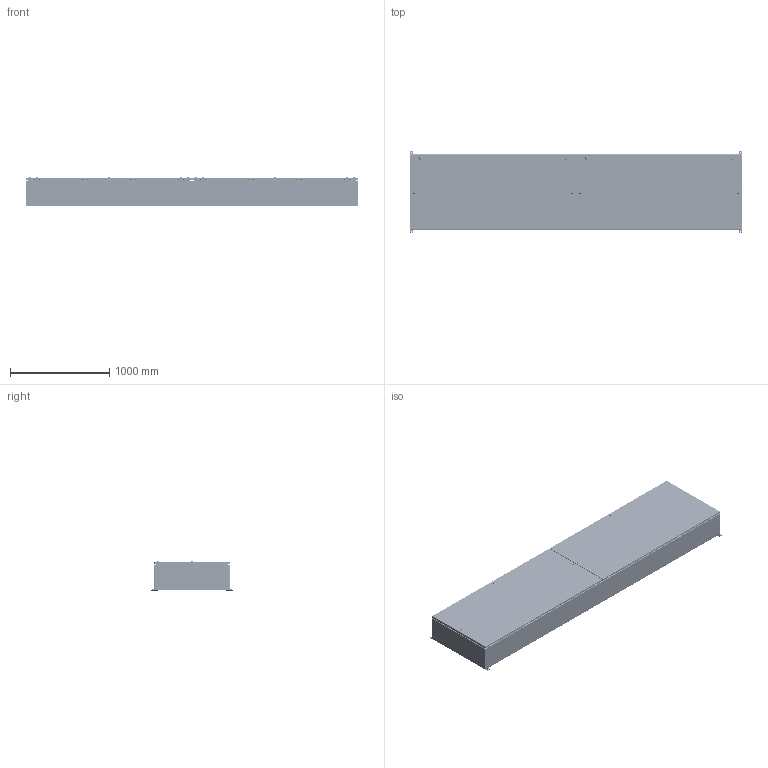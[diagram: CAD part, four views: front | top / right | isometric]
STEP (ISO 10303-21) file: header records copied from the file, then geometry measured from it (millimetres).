
FILE_DESCRIPTION(/* description */ ('1412BTSSCU 2000A - 3 Wires x 132" Assembly'),/* implementation_level */ '2;1');
FILE_NAME(/* name */ 'C:\Vault_Workspace\Inventor_Dwg\BoxCad\Result\1412BTSSCU112003DT\e-mail\3D\1412BTSSCU112003DT.stp',/* time_stamp */ '2022-11-04T15:07:07-04:00',/* author */ ('BoxCad'),/* organization */ (''),/* preprocessor_version */ 'ST-DEVELOPER v18.1',/* originating_system */ 'Autodesk Inventor 2020',/* authorisation */ '');
FILE_SCHEMA (('AUTOMOTIVE_DESIGN { 1 0 10303 214 3 1 1 }'));
Products named in the file (66): 1412BTSSCU112003DT; 1412BTSSCU112003DTB; 1412BTSSCU112003DTB-P; 1412BTSSCU112003DTE-P; STK-Q-16020; iLogic_STK-G-00701; STK-Q-00260; STK-Q-07220-1; STK-Q-07220-A; STK-Q-07220-B; 1412BTSSCU112003DTC; 1412BTSSCU112003DTC-P; 1412BTSSCU112003DTF-P; 1412BTSSCU112003DTG; STK-Q-16095; STK-K-09850-1; STK-Q-33019; STK-Q-90111; STK-Q-40096; STK-Q-63412; STK-S-00100; STK-A-880SCQ4-SLSS6-1; STK-A-880SCQ4-SLSS6-2; STK-A-880SCQ4-SLSS6-3; STK-A-880SCQ4-SLSS6-4; STK-A-880SCQ4-SLSS6-5; STK-A-880SCQ4-SLSS6-6; STK-A-880SCQ4-SLSS6-7; STK-A-880SCQ4-SLSS6-8; STK-A-880SCQ4-SLSS6-9; STK-A-880SCQ4-SLSS6-10; STK-Q-70621; STK-Q-70631; STK-Q-78145; STK-Q-03200; STK-Q-78125; STK-Q-90390; STK-Q-78160; STK-Q-78141; 1412BTSSCU112003DTIP1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
Assembly tree (245 placements, depth 4):
  1412BTSSCU112003DT
    1412BTSSCU112003DTB
      1412BTSSCU112003DTB-P
      1412BTSSCU112003DTE-P
      STK-Q-16095  x2
      STK-Q-16020  x12
      iLogic_STK-G-00701
      STK-Q-00260  x10
      STK-Q-07220-1  x10
        STK-Q-07220-A
        STK-Q-07220-B
      STK-S-00100
    1412BTSSCU112003DTC
      1412BTSSCU112003DTC-P
      1412BTSSCU112003DTF-P
      1412BTSSCU112003DTG  x2
      STK-Q-16095  x2
      STK-K-09850-1  x8
        STK-Q-33019
        STK-Q-90111
        STK-Q-40096
        STK-Q-63412
      STK-S-00100
      STK-A-880SCQ4-SLSS6-1
        STK-Q-70621
        STK-Q-70631
        STK-Q-78145
        STK-Q-03200
        STK-Q-78125
        STK-Q-90390
        STK-Q-78160
        STK-Q-78141
      STK-A-880SCQ4-SLSS6-2
        STK-Q-70621
        STK-Q-70631
        STK-Q-78145
        STK-Q-03200
        STK-Q-78125
        STK-Q-90390
        STK-Q-78160
        STK-Q-78141
      STK-A-880SCQ4-SLSS6-3
        STK-Q-70621
        STK-Q-70631
        STK-Q-78145
        STK-Q-03200
        STK-Q-78125
        STK-Q-90390
        STK-Q-78160
        STK-Q-78141
      STK-A-880SCQ4-SLSS6-4
        STK-Q-70621
        STK-Q-70631
        STK-Q-78145
        STK-Q-03200
        STK-Q-78125
        STK-Q-90390
        STK-Q-78160
        STK-Q-78141
      STK-A-880SCQ4-SLSS6-5
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Bounding box: 3352.8 x 819.15 x 294.19 mm (x, y, z)
Volume: 30038325.7 mm3; surface area: 21591252.3 mm2
Topology: 359 solids, 359 shells, 51278 faces, 134717 edges, 84264 vertices
Faces by surface type: plane 19266, bspline 14690, cylinder 12153, torus 3483, sphere 1064, cone 622
Full cylindrical faces by diameter (mm): 0.75 x16, 0.762 x16, 1 x32, 1.1 x32, 3.2 x16, 4.5 x60, 4.85 x64, 4.917 x8, 4.95 x16, 5 x10, 5.1 x140, 5.105 x48, 5.9 x278, 6.65 x15, 6.655 x12, 6.8 x10, 6.85 x100, 7.366 x16, 7.8 x615, 8 x64, 8.25 x30, 8.6 x12, 9.5 x10, 9.6 x10, 9.7 x48, 9.906 x4, 10 x18, 10.312 x2, 11.5 x30, 12 x23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
Entity records: 236844 total; most frequent: CARTESIAN_POINT 91751, ORIENTED_EDGE 32014, DIRECTION 25758, EDGE_CURVE 16007, VERTEX_POINT 10244, AXIS2_PLACEMENT_3D 8845, LINE 8068, VECTOR 8068
